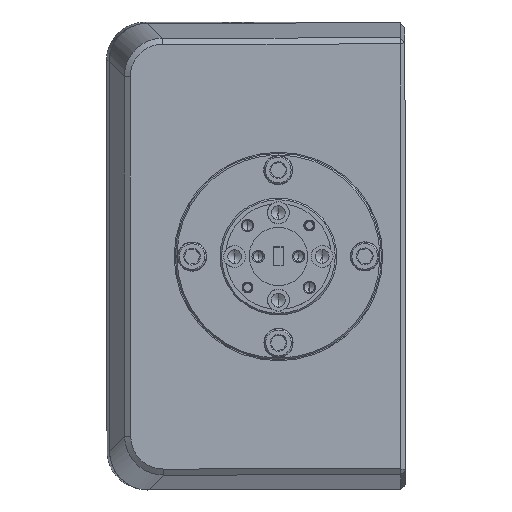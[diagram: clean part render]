
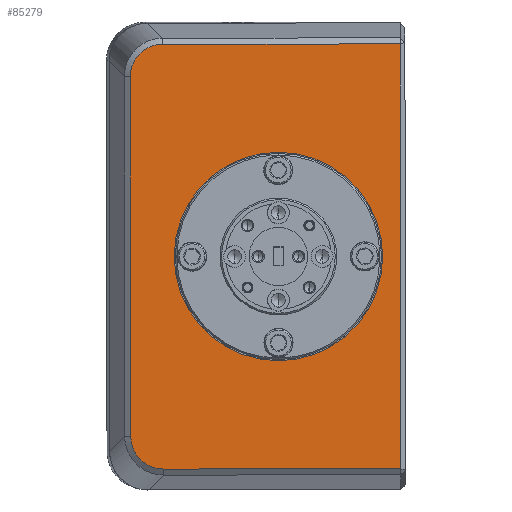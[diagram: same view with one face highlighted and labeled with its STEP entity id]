
A CAD part, left-side view. The second image highlights one B-rep face of the part: STEP entity #85279.
In plain terms, the highlighted planar face has unit normal (-1, -0.002, -0.001).
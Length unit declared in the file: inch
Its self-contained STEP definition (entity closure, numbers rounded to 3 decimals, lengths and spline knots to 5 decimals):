
#176 = FACE_OUTER_BOUND ( 'NONE', #72696, .T. ) ;
#1088 = CARTESIAN_POINT ( 'NONE',  ( -3.34323, -7.48197, -1.31837 ) ) ;
#1923 = DIRECTION ( 'NONE',  ( -1., -0.002, -0.001 ) ) ;
#2163 = ORIENTED_EDGE ( 'NONE', *, *, #72096, .F. ) ;
#3642 = ORIENTED_EDGE ( 'NONE', *, *, #74559, .T. ) ;
#5311 = CARTESIAN_POINT ( 'NONE',  ( -3.34251, -8.4002, 0.0479 ) ) ;
#5608 = CIRCLE ( 'NONE', #43980, 0.67 ) ;
#7247 = VECTOR ( 'NONE', #61541, 39.37008 ) ;
#7385 = CARTESIAN_POINT ( 'NONE',  ( -3.34391, -6.6684, -2.47558 ) ) ;
#7688 = CARTESIAN_POINT ( 'NONE',  ( -3.34511, -6.70695, -0.03451 ) ) ;
#8133 = CARTESIAN_POINT ( 'NONE',  ( -3.34513, -6.67076, -0.10827 ) ) ;
#11740 = CARTESIAN_POINT ( 'NONE',  ( -3.34365, -6.77209, -2.65813 ) ) ;
#12233 = CARTESIAN_POINT ( 'NONE',  ( -3.34387, -6.6739, -2.53056 ) ) ;
#12373 = VERTEX_POINT ( 'NONE', #5311 ) ;
#15077 = CARTESIAN_POINT ( 'NONE',  ( -3.34512, -6.66536, -0.13572 ) ) ;
#18590 = ORIENTED_EDGE ( 'NONE', *, *, #46960, .T. ) ;
#18946 = AXIS2_PLACEMENT_3D ( 'NONE', #1088, #48239, #55635 ) ;
#19314 = EDGE_CURVE ( 'NONE', #58080, #12373, #32420, .T. ) ;
#20192 = LINE ( 'NONE', #89090, #47755 ) ;
#22008 = AXIS2_PLACEMENT_3D ( 'NONE', #63111, #35509, #79273 ) ;
#22406 = VERTEX_POINT ( 'NONE', #88119 ) ;
#22997 = VERTEX_POINT ( 'NONE', #43025 ) ;
#23517 = ORIENTED_EDGE ( 'NONE', *, *, #43431, .T. ) ;
#26013 = LINE ( 'NONE', #40324, #7247 ) ;
#26702 = VECTOR ( 'NONE', #80110, 39.37008 ) ;
#29898 = CARTESIAN_POINT ( 'NONE',  ( -3.34504, -6.76862, 0.01956 ) ) ;
#30159 = DIRECTION ( 'NONE',  ( -0.001, 0.001, 1. ) ) ;
#30320 = CARTESIAN_POINT ( 'NONE',  ( -3.34252, -7.48374, -2.68344 ) ) ;
#31728 = EDGE_CURVE ( 'NONE', #12373, #22406, #26013, .T. ) ;
#32420 = LINE ( 'NONE', #60519, #61436 ) ;
#33223 = CARTESIAN_POINT ( 'NONE',  ( -3.34511, -6.6654, -0.16327 ) ) ;
#33803 = B_SPLINE_CURVE_WITH_KNOTS ( 'NONE', 3,
 ( #75470, #60712, #12233, #40376, #53386, #39447, #11740, #81524, #52894, #88428 ),
 .UNSPECIFIED., .F., .F.,
 ( 4, 2, 2, 2, 4 ),
 ( 0., 0.25, 0.5, 0.75, 1. ),
 .UNSPECIFIED. ) ;
#35509 = DIRECTION ( 'NONE',  ( -1., -0.002, -0.001 ) ) ;
#35958 = VERTEX_POINT ( 'NONE', #33223 ) ;
#39447 = CARTESIAN_POINT ( 'NONE',  ( -3.34369, -6.74883, -2.64268 ) ) ;
#40324 = CARTESIAN_POINT ( 'NONE',  ( -3.34394, -7.4802, 0.04671 ) ) ;
#40376 = CARTESIAN_POINT ( 'NONE',  ( -3.34381, -6.69476, -2.58101 ) ) ;
#41291 = EDGE_LOOP ( 'NONE', ( #41380, #2163 ) ) ;
#41380 = ORIENTED_EDGE ( 'NONE', *, *, #83277, .F. ) ;
#43025 = CARTESIAN_POINT ( 'NONE',  ( -3.34347, -6.87759, -2.68423 ) ) ;
#43431 = EDGE_CURVE ( 'NONE', #35958, #59344, #20192, .T. ) ;
#43980 = AXIS2_PLACEMENT_3D ( 'NONE', #84715, #1923, #30159 ) ;
#46960 = EDGE_CURVE ( 'NONE', #22997, #58080, #74107, .T. ) ;
#47214 = CARTESIAN_POINT ( 'NONE',  ( -3.34337, -7.6161, -0.64819 ) ) ;
#47755 = VECTOR ( 'NONE', #82603, 39.37008 ) ;
#48239 = DIRECTION ( 'NONE',  ( 1., 0.002, 0.001 ) ) ;
#49681 = VERTEX_POINT ( 'NONE', #83218 ) ;
#49865 = CARTESIAN_POINT ( 'NONE',  ( -3.34109, -8.40374, -2.68225 ) ) ;
#50656 = CARTESIAN_POINT ( 'NONE',  ( -3.34511, -6.6654, -0.16327 ) ) ;
#51081 = CARTESIAN_POINT ( 'NONE',  ( -3.34489, -6.87405, 0.04592 ) ) ;
#52894 = CARTESIAN_POINT ( 'NONE',  ( -3.34351, -6.85004, -2.68427 ) ) ;
#53386 = CARTESIAN_POINT ( 'NONE',  ( -3.34377, -6.71028, -2.60422 ) ) ;
#54483 = CIRCLE ( 'NONE', #22008, 0.67 ) ;
#55635 = DIRECTION ( 'NONE',  ( 0.001, -0.001, -1. ) ) ;
#57018 = PLANE ( 'NONE',  #18946 ) ;
#57093 = CARTESIAN_POINT ( 'NONE',  ( -3.34494, -6.84656, 0.04589 ) ) ;
#57552 = CARTESIAN_POINT ( 'NONE',  ( -3.34498, -6.81907, 0.04042 ) ) ;
#58080 = VERTEX_POINT ( 'NONE', #49865 ) ;
#59344 = VERTEX_POINT ( 'NONE', #7385 ) ;
#60519 = CARTESIAN_POINT ( 'NONE',  ( -3.3418, -8.40197, -1.31717 ) ) ;
#60712 = CARTESIAN_POINT ( 'NONE',  ( -3.34389, -6.66843, -2.50307 ) ) ;
#61239 = ORIENTED_EDGE ( 'NONE', *, *, #19314, .T. ) ;
#61436 = VECTOR ( 'NONE', #62750, 39.37008 ) ;
#61541 = DIRECTION ( 'NONE',  ( -0.002, 1., -0.001 ) ) ;
#62750 = DIRECTION ( 'NONE',  ( -0.001, 0.001, 1. ) ) ;
#63111 = CARTESIAN_POINT ( 'NONE',  ( -3.34302, -7.61697, -1.31819 ) ) ;
#70455 = VERTEX_POINT ( 'NONE', #47214 ) ;
#70790 = ORIENTED_EDGE ( 'NONE', *, *, #31728, .T. ) ;
#71382 = CARTESIAN_POINT ( 'NONE',  ( -3.34507, -6.74541, 0.00403 ) ) ;
#72096 = EDGE_CURVE ( 'NONE', #49681, #70455, #5608, .T. ) ;
#72696 = EDGE_LOOP ( 'NONE', ( #3642, #18590, #61239, #70790, #83889, #23517 ) ) ;
#72918 = B_SPLINE_CURVE_WITH_KNOTS ( 'NONE', 3,
 ( #51081, #57093, #57552, #29898, #71382, #7688, #85220, #8133, #15077, #50656 ),
 .UNSPECIFIED., .F., .F.,
 ( 4, 2, 2, 2, 4 ),
 ( 0., 0.25, 0.5, 0.75, 1. ),
 .UNSPECIFIED. ) ;
#74107 = LINE ( 'NONE', #30320, #26702 ) ;
#74559 = EDGE_CURVE ( 'NONE', #59344, #22997, #33803, .T. ) ;
#75470 = CARTESIAN_POINT ( 'NONE',  ( -3.34391, -6.6684, -2.47558 ) ) ;
#76370 = FACE_BOUND ( 'NONE', #41291, .T. ) ;
#79273 = DIRECTION ( 'NONE',  ( -0.001, 0.001, 1. ) ) ;
#80110 = DIRECTION ( 'NONE',  ( 0.002, -1., 0.001 ) ) ;
#81524 = CARTESIAN_POINT ( 'NONE',  ( -3.34356, -6.82259, -2.67887 ) ) ;
#82603 = DIRECTION ( 'NONE',  ( 0.001, -0.001, -1. ) ) ;
#83218 = CARTESIAN_POINT ( 'NONE',  ( -3.34267, -7.61784, -1.98819 ) ) ;
#83277 = EDGE_CURVE ( 'NONE', #70455, #49681, #54483, .T. ) ;
#83889 = ORIENTED_EDGE ( 'NONE', *, *, #89912, .T. ) ;
#84715 = CARTESIAN_POINT ( 'NONE',  ( -3.34302, -7.61697, -1.31819 ) ) ;
#85220 = CARTESIAN_POINT ( 'NONE',  ( -3.34512, -6.6915, -0.05777 ) ) ;
#85279 = ADVANCED_FACE ( 'NONE', ( #176, #76370 ), #57018, .F. ) ;
#88119 = CARTESIAN_POINT ( 'NONE',  ( -3.34489, -6.87405, 0.04592 ) ) ;
#88428 = CARTESIAN_POINT ( 'NONE',  ( -3.34347, -6.87759, -2.68423 ) ) ;
#89090 = CARTESIAN_POINT ( 'NONE',  ( -3.34451, -6.6669, -1.31942 ) ) ;
#89912 = EDGE_CURVE ( 'NONE', #22406, #35958, #72918, .T. ) ;
